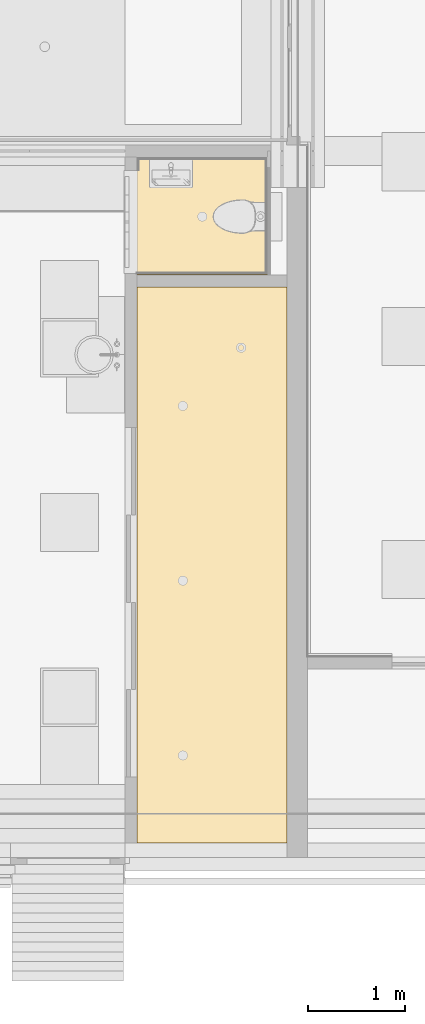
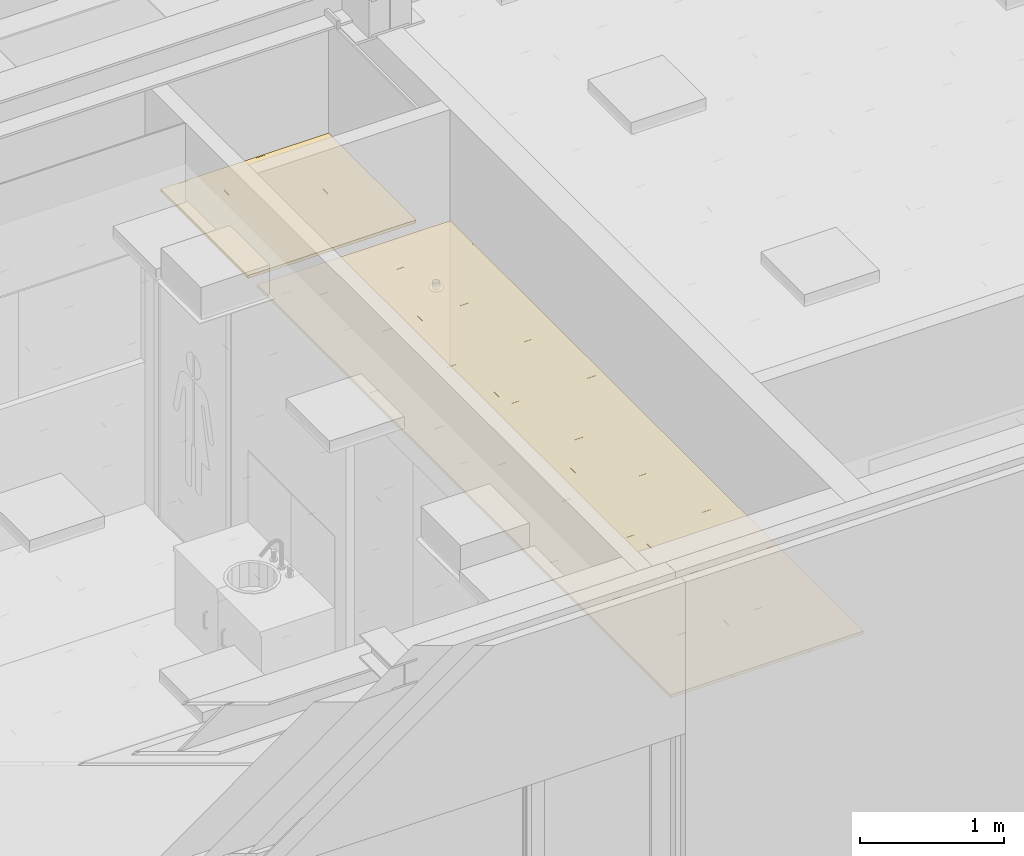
# One storey, part 164 of 347: 2 coverings.
"""IFC2X3 building model written with IfcOpenShell, lengths in millimetres."""

from ifc_helpers import new_model, entity, si_unit, converted_unit, derived_unit, money_unit, direction, frame, origin_with_axes, place, context, subcontext, project, spatial, faceted_brep, type_object, element, save


model = new_model("IFC2X3")

# Units and contexts
model_context = context("Model", 3, precision=0.01, world=origin_with_axes(), true_north=direction((0.0, 1.0)))
plan_context = context("Plan", 3, precision=0.01, world=origin_with_axes(), true_north=direction((0.0, 1.0)))
body_context = subcontext(model_context, "Body", "Model", "MODEL_VIEW")
ifc_project = project(units=[si_unit("LENGTHUNIT", "METRE", prefix="MILLI"), si_unit("AREAUNIT", "SQUARE_METRE"), si_unit("VOLUMEUNIT", "CUBIC_METRE"), converted_unit("PLANEANGLEUNIT", "DEGREE", entity("IfcPlaneAngleMeasure", 0.0174532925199), si_unit("PLANEANGLEUNIT", "RADIAN"), dimensions=[0, 0, 0, 0, 0, 0, 0]), money_unit("EUR"), converted_unit("TIMEUNIT", "Year", entity("IfcTimeMeasure", 31556926.0), si_unit("TIMEUNIT", "SECOND"), dimensions=[0, 0, 1, 0, 0, 0, 0]), si_unit("MASSUNIT", "GRAM", prefix="KILO"), si_unit("THERMODYNAMICTEMPERATUREUNIT", "DEGREE_CELSIUS"), si_unit("LUMINOUSINTENSITYUNIT", "LUMEN"), si_unit("ENERGYUNIT", "JOULE", prefix="MEGA"), derived_unit("THERMALCONDUCTANCEUNIT", [(si_unit("POWERUNIT", "WATT"), 1), (si_unit("LENGTHUNIT", "METRE"), -1), (si_unit("THERMODYNAMICTEMPERATUREUNIT", "KELVIN"), -1)]), derived_unit("SPECIFICHEATCAPACITYUNIT", [(si_unit("ENERGYUNIT", "JOULE"), 1), (si_unit("MASSUNIT", "GRAM", prefix="KILO"), -1), (si_unit("THERMODYNAMICTEMPERATUREUNIT", "KELVIN"), -1)]), derived_unit("MASSDENSITYUNIT", [(si_unit("MASSUNIT", "GRAM", prefix="KILO"), 1), (si_unit("VOLUMEUNIT", "CUBIC_METRE"), -1)])], contexts=[model_context, plan_context])

# Site, building, storey
site_placement = place(None, origin_with_axes())
site = spatial("IfcSite", under=ifc_project, at=site_placement, Name="Site", CompositionType="ELEMENT")
building_placement = place(site_placement, origin_with_axes())
building = spatial("IfcBuilding", under=site, at=building_placement, Name="Naam gebouw", CompositionType="ELEMENT")
storey_placement = place(building_placement, origin_with_axes())
storey = spatial("IfcBuildingStorey", under=building, at=storey_placement, Name="begane grond", CompositionType="ELEMENT", Elevation=0.0)

# Coverings
covering_type = type_object("IfcCoveringType", Name="Ceiling Editor INT_v2.01", PredefinedType="CEILING")
covering_1_placement = place(storey_placement, frame((33950.0, 5000.00001565, 2600.0), z_axis=(0.0, 0.0, 1.0), x_axis=(1.0, 0.0, 0.0)))
element("IfcCovering", 1, at=covering_1_placement, inside=storey, type_object=covering_type, Name="45 Plafondafwerkingen_77 garderobe", PredefinedType="CEILING", context=body_context, shape_type="Brep", body=[
    faceted_brep([(0.0, 599.899956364, 0.0), (0.0, 599.899956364, 20.0), (772.4, 599.899956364, 20.0), (772.4, 599.899956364, 0.0), (0.0, 0.0999563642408, 0.0), (0.0, 0.0999563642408, 20.0), (772.4, 0.0999563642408, 20.0), (772.4, 0.0999563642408, 0.0)], [[[0, 1, 2, 3]], [[1, 0, 4, 5]], [[1, 5, 6, 2]], [[6, 7, 3, 2]], [[4, 0, 3, 7]], [[5, 4, 7, 6]]]),
    faceted_brep([(0.0, 1199.89995636, 0.0), (0.0, 1199.89995636, 20.0), (772.4, 1199.89995636, 20.0), (772.4, 1199.89995636, 0.0), (0.0, 600.099956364, 0.0), (0.0, 600.099956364, 20.0), (772.4, 600.099956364, 20.0), (772.4, 600.099956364, 0.0)], [[[0, 1, 2, 3]], [[1, 0, 4, 5]], [[1, 5, 6, 2]], [[6, 7, 3, 2]], [[4, 0, 3, 7]], [[5, 4, 7, 6]]]),
    faceted_brep([(0.0, 1799.89995636, 0.0), (0.0, 1799.89995636, 20.0), (772.4, 1799.89995636, 20.0), (772.4, 1799.89995636, 0.0), (0.0, 1431.24999609, 0.0), (0.0, 1431.24999609, 20.0), (0.0, 1200.09995636, 20.0), (772.4, 1200.09995636, 20.0), (772.4, 1200.09995636, 0.0), (0.0, 1200.09995636, 0.0)], [[[0, 1, 2, 3]], [[1, 0, 4, 5]], [[5, 6, 7, 2, 1]], [[7, 8, 3, 2]], [[4, 0, 3, 8, 9]], [[6, 5, 4, 9]], [[6, 9, 8, 7]]]),
    faceted_brep([(0.0, 2399.89995636, 0.0), (0.0, 2399.89995636, 20.0), (772.4, 2399.89995636, 20.0), (772.4, 2399.89995636, 0.0), (0.0, 1800.09995636, 0.0), (0.0, 1800.09995636, 20.0), (772.4, 1800.09995636, 20.0), (772.4, 1800.09995636, 0.0)], [[[0, 1, 2, 3]], [[1, 0, 4, 5]], [[1, 5, 6, 2]], [[6, 7, 3, 2]], [[4, 0, 3, 7]], [[5, 4, 7, 6]]]),
    faceted_brep([(0.0, 2999.89995636, 0.0), (0.0, 2999.89995636, 20.0), (772.4, 2999.89995636, 20.0), (772.4, 2999.89995636, 0.0), (0.0, 2862.49999218, 0.0), (0.0, 2862.49999218, 20.0), (0.0, 2400.09995636, 20.0), (772.4, 2400.09995636, 20.0), (772.4, 2400.09995636, 0.0), (0.0, 2400.09995636, 0.0)], [[[0, 1, 2, 3]], [[1, 0, 4, 5]], [[5, 6, 7, 2, 1]], [[7, 8, 3, 2]], [[4, 0, 3, 8, 9]], [[6, 5, 4, 9]], [[6, 9, 8, 7]]]),
    faceted_brep([(0.0, 3599.89995636, 0.0), (0.0, 3599.89995636, 20.0), (772.4, 3599.89995636, 20.0), (772.4, 3599.89995636, 0.0), (0.0, 3000.09995636, 0.0), (0.0, 3000.09995636, 20.0), (772.4, 3000.09995636, 20.0), (772.4, 3000.09995636, 0.0)], [[[0, 1, 2, 3]], [[1, 0, 4, 5]], [[1, 5, 6, 2]], [[6, 7, 3, 2]], [[4, 0, 3, 7]], [[5, 4, 7, 6]]]),
    faceted_brep([(0.0, 4199.89995636, 0.0), (0.0, 4199.89995636, 20.0), (772.4, 4199.89995636, 20.0), (772.4, 4199.89995636, 0.0), (0.0, 3600.09995636, 0.0), (0.0, 3600.09995636, 20.0), (772.4, 3600.09995636, 20.0), (772.4, 3600.09995636, 0.0)], [[[0, 1, 2, 3]], [[1, 0, 4, 5]], [[1, 5, 6, 2]], [[6, 7, 3, 2]], [[4, 0, 3, 7]], [[5, 4, 7, 6]]]),
    faceted_brep([(0.0, 4799.89995636, 0.0), (0.0, 4799.89995636, 20.0), (772.4, 4799.89995636, 20.0), (772.4, 4799.89995636, 0.0), (0.0, 4293.74998827, 0.0), (0.0, 4293.74998827, 20.0), (0.0, 4200.09995636, 20.0), (772.4, 4200.09995636, 20.0), (772.4, 4200.09995636, 0.0), (0.0, 4200.09995636, 0.0)], [[[0, 1, 2, 3]], [[1, 0, 4, 5]], [[5, 6, 7, 2, 1]], [[7, 8, 3, 2]], [[4, 0, 3, 8, 9]], [[6, 5, 4, 9]], [[6, 9, 8, 7]]]),
    faceted_brep([(0.0, 5399.89995636, 0.0), (0.0, 5399.89995636, 20.0), (772.4, 5399.89995636, 20.0), (772.4, 5399.89995636, 0.0), (0.0, 4800.09995636, 0.0), (0.0, 4800.09995636, 20.0), (772.4, 4800.09995636, 20.0), (772.4, 4800.09995636, 0.0)], [[[0, 1, 2, 3]], [[1, 0, 4, 5]], [[1, 5, 6, 2]], [[6, 7, 3, 2]], [[4, 0, 3, 7]], [[5, 4, 7, 6]]]),
    faceted_brep([(772.4, 5724.99998435, 0.0), (772.4, 5724.99998435, 20.0), (772.4, 5400.09995636, 20.0), (772.4, 5400.09995636, 0.0), (386.25, 5724.99998435, 0.0), (386.25, 5724.99998435, 20.0), (0.0, 5724.99998435, 20.0), (0.0, 5400.09995636, 20.0), (0.0, 5400.09995636, 0.0), (0.0, 5724.99998435, 0.0)], [[[0, 1, 2, 3]], [[1, 0, 4, 5]], [[6, 7, 2, 1, 5]], [[7, 8, 3, 2]], [[4, 0, 3, 8, 9]], [[6, 5, 4, 9]], [[7, 6, 9, 8]]]),
    faceted_brep([(1545.0, 0.0999563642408, 20.0), (1545.0, 599.899956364, 20.0), (772.6, 599.899956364, 20.0), (772.6, 0.0999563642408, 20.0), (1545.0, 0.0999563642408, 0.0), (1545.0, 599.899956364, 0.0), (772.6, 599.899956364, 0.0), (772.6, 0.0999563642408, 0.0)], [[[0, 1, 2, 3]], [[1, 0, 4, 5]], [[1, 5, 6, 2]], [[2, 6, 7, 3]], [[4, 0, 3, 7]], [[5, 4, 7, 6]]]),
    faceted_brep([(1545.0, 600.099956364, 20.0), (1545.0, 1199.89995636, 20.0), (772.6, 1199.89995636, 20.0), (772.6, 600.099956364, 20.0), (1545.0, 600.099956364, 0.0), (1545.0, 1199.89995636, 0.0), (772.6, 1199.89995636, 0.0), (772.6, 600.099956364, 0.0)], [[[0, 1, 2, 3]], [[1, 0, 4, 5]], [[1, 5, 6, 2]], [[2, 6, 7, 3]], [[4, 0, 3, 7]], [[5, 4, 7, 6]]]),
    faceted_brep([(1545.0, 1431.24999609, 20.0), (1545.0, 1799.89995636, 20.0), (772.6, 1799.89995636, 20.0), (772.6, 1200.09995636, 20.0), (1545.0, 1200.09995636, 20.0), (1545.0, 1431.24999609, 0.0), (1545.0, 1799.89995636, 0.0), (772.6, 1799.89995636, 0.0), (772.6, 1200.09995636, 0.0), (1545.0, 1200.09995636, 0.0)], [[[0, 1, 2, 3, 4]], [[1, 0, 5, 6]], [[1, 6, 7, 2]], [[2, 7, 8, 3]], [[9, 4, 3, 8]], [[0, 4, 9, 5]], [[5, 9, 8, 7, 6]]]),
    faceted_brep([(1545.0, 1800.09995636, 20.0), (1545.0, 2399.89995636, 20.0), (772.6, 2399.89995636, 20.0), (772.6, 1800.09995636, 20.0), (1545.0, 1800.09995636, 0.0), (1545.0, 2399.89995636, 0.0), (772.6, 2399.89995636, 0.0), (772.6, 1800.09995636, 0.0)], [[[0, 1, 2, 3]], [[1, 0, 4, 5]], [[1, 5, 6, 2]], [[2, 6, 7, 3]], [[4, 0, 3, 7]], [[5, 4, 7, 6]]]),
    faceted_brep([(1545.0, 2862.49999218, 20.0), (1545.0, 2999.89995636, 20.0), (772.6, 2999.89995636, 20.0), (772.6, 2400.09995636, 20.0), (1545.0, 2400.09995636, 20.0), (1545.0, 2862.49999218, 0.0), (1545.0, 2999.89995636, 0.0), (772.6, 2999.89995636, 0.0), (772.6, 2400.09995636, 0.0), (1545.0, 2400.09995636, 0.0)], [[[0, 1, 2, 3, 4]], [[1, 0, 5, 6]], [[1, 6, 7, 2]], [[2, 7, 8, 3]], [[9, 4, 3, 8]], [[0, 4, 9, 5]], [[5, 9, 8, 7, 6]]]),
    faceted_brep([(1545.0, 3000.09995636, 20.0), (1545.0, 3599.89995636, 20.0), (772.6, 3599.89995636, 20.0), (772.6, 3000.09995636, 20.0), (1545.0, 3000.09995636, 0.0), (1545.0, 3599.89995636, 0.0), (772.6, 3599.89995636, 0.0), (772.6, 3000.09995636, 0.0)], [[[0, 1, 2, 3]], [[1, 0, 4, 5]], [[1, 5, 6, 2]], [[2, 6, 7, 3]], [[4, 0, 3, 7]], [[5, 4, 7, 6]]]),
    faceted_brep([(1545.0, 3600.09995636, 20.0), (1545.0, 4199.89995636, 20.0), (772.6, 4199.89995636, 20.0), (772.6, 3600.09995636, 20.0), (1545.0, 3600.09995636, 0.0), (1545.0, 4199.89995636, 0.0), (772.6, 4199.89995636, 0.0), (772.6, 3600.09995636, 0.0)], [[[0, 1, 2, 3]], [[1, 0, 4, 5]], [[1, 5, 6, 2]], [[2, 6, 7, 3]], [[4, 0, 3, 7]], [[5, 4, 7, 6]]]),
    faceted_brep([(1545.0, 4293.74998827, 20.0), (1545.0, 4799.89995636, 20.0), (772.6, 4799.89995636, 20.0), (772.6, 4200.09995636, 20.0), (1545.0, 4200.09995636, 20.0), (1545.0, 4293.74998827, 0.0), (1545.0, 4799.89995636, 0.0), (772.6, 4799.89995636, 0.0), (772.6, 4200.09995636, 0.0), (1545.0, 4200.09995636, 0.0)], [[[0, 1, 2, 3, 4]], [[1, 0, 5, 6]], [[1, 6, 7, 2]], [[2, 7, 8, 3]], [[9, 4, 3, 8]], [[0, 4, 9, 5]], [[5, 9, 8, 7, 6]]]),
    faceted_brep([(1545.0, 4800.09995636, 20.0), (1545.0, 5399.89995636, 20.0), (772.6, 5399.89995636, 20.0), (772.6, 4800.09995636, 20.0), (1545.0, 4800.09995636, 0.0), (1545.0, 5399.89995636, 0.0), (772.6, 5399.89995636, 0.0), (772.6, 4800.09995636, 0.0)], [[[0, 1, 2, 3]], [[1, 0, 4, 5]], [[1, 5, 6, 2]], [[2, 6, 7, 3]], [[4, 0, 3, 7]], [[5, 4, 7, 6]]]),
    faceted_brep([(1545.0, 5400.09995636, 20.0), (1545.0, 5724.99998435, 20.0), (1158.75, 5724.99998435, 20.0), (772.6, 5724.99998435, 20.0), (772.6, 5400.09995636, 20.0), (1545.0, 5400.09995636, 0.0), (1545.0, 5724.99998435, 0.0), (1158.75, 5724.99998435, 0.0), (772.6, 5724.99998435, 0.0), (772.6, 5400.09995636, 0.0)], [[[0, 1, 2, 3, 4]], [[1, 0, 5, 6]], [[2, 1, 6, 7]], [[3, 2, 7, 8]], [[3, 8, 9, 4]], [[5, 0, 4, 9]], [[6, 5, 9, 8, 7]]]),
    faceted_brep([(760.0, 25.0, -5.0), (760.0, 25.0, 0.0), (760.0, 587.499956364, 0.0), (760.0, 587.499956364, -5.0), (25.0, 25.0, -5.0), (25.0, 25.0, 0.0), (1545.0, 1787.49995636, 0.0), (1545.0, 1812.49995636, 0.0), (1545.0, 2387.49995636, 0.0), (1545.0, 2412.49995636, 0.0), (1545.0, 2987.49995636, 0.0), (1545.0, 3012.49995636, 0.0), (1545.0, 3587.49995636, 0.0), (1545.0, 3612.49995636, 0.0), (1545.0, 4187.49995636, 0.0), (1545.0, 4212.49995636, 0.0), (1545.0, 4787.49995636, 0.0), (1545.0, 4812.49995636, 0.0), (1545.0, 5387.49995636, 0.0), (1545.0, 5412.49995636, 0.0), (1545.0, 5724.99998435, 0.0), (785.0, 5724.99998435, 0.0), (772.5, 5724.99998435, 0.0), (760.0, 5724.99998435, 0.0), (0.0, 5724.99998435, 0.0), (0.0, 5412.49995636, 0.0), (0.0, 5387.49995636, 0.0), (0.0, 4812.49995636, 0.0), (0.0, 4787.49995636, 0.0), (0.0, 4212.49995636, 0.0), (0.0, 4187.49995636, 0.0), (0.0, 3612.49995636, 0.0), (0.0, 3587.49995636, 0.0), (0.0, 3012.49995636, 0.0), (0.0, 2987.49995636, 0.0), (0.0, 2412.49995636, 0.0), (0.0, 2387.49995636, 0.0), (0.0, 1812.49995636, 0.0), (0.0, 1787.49995636, 0.0), (0.0, 1212.49995636, 0.0), (0.0, 1187.49995636, 0.0), (0.0, 612.499956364, 0.0), (0.0, 587.499956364, 0.0), (0.0, 12.4999563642, 0.0), (0.0, 0.0, 0.0), (386.25, 0.0, 0.0), (772.5, 0.0, 0.0), (1158.75, 0.0, 0.0), (1545.0, 0.0, 0.0), (1545.0, 12.4999563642, 0.0), (1545.0, 587.499956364, 0.0), (1545.0, 612.499956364, 0.0), (1545.0, 1187.49995636, 0.0), (1545.0, 1212.49995636, 0.0), (25.0, 587.499956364, 0.0), (25.0, 1187.49995636, 0.0), (760.0, 1187.49995636, 0.0), (760.0, 612.499956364, 0.0), (25.0, 612.499956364, 0.0), (25.0, 1787.49995636, 0.0), (760.0, 1787.49995636, 0.0), (760.0, 1212.49995636, 0.0), (25.0, 1212.49995636, 0.0), (25.0, 2387.49995636, 0.0), (760.0, 2387.49995636, 0.0), (760.0, 1812.49995636, 0.0), (25.0, 1812.49995636, 0.0), (25.0, 2987.49995636, 0.0), (760.0, 2987.49995636, 0.0), (760.0, 2412.49995636, 0.0), (25.0, 2412.49995636, 0.0), (25.0, 3587.49995636, 0.0), (760.0, 3587.49995636, 0.0), (760.0, 3012.49995636, 0.0), (25.0, 3012.49995636, 0.0), (25.0, 4187.49995636, 0.0), (760.0, 4187.49995636, 0.0), (760.0, 3612.49995636, 0.0), (25.0, 3612.49995636, 0.0), (25.0, 4787.49995636, 0.0), (760.0, 4787.49995636, 0.0), (760.0, 4212.49995636, 0.0), (25.0, 4212.49995636, 0.0), (25.0, 5387.49995636, 0.0), (760.0, 5387.49995636, 0.0), (760.0, 4812.49995636, 0.0), (25.0, 4812.49995636, 0.0), (760.0, 5699.99998435, 0.0), (760.0, 5412.49995636, 0.0), (25.0, 5412.49995636, 0.0), (25.0, 5699.99998435, 0.0), (1520.0, 5387.49995636, 0.0), (1520.0, 4812.49995636, 0.0), (785.0, 4812.49995636, 0.0), (785.0, 5387.49995636, 0.0), (1520.0, 5699.99998435, 0.0), (1520.0, 5412.49995636, 0.0), (785.0, 5412.49995636, 0.0), (785.0, 5699.99998435, 0.0), (1520.0, 3587.49995636, 0.0), (1520.0, 3012.49995636, 0.0), (785.0, 3012.49995636, 0.0), (785.0, 3587.49995636, 0.0), (1520.0, 4187.49995636, 0.0), (1520.0, 3612.49995636, 0.0), (785.0, 3612.49995636, 0.0), (785.0, 4187.49995636, 0.0), (1520.0, 4212.49995636, 0.0), (785.0, 4212.49995636, 0.0), (785.0, 4787.49995636, 0.0), (1520.0, 4787.49995636, 0.0), (1520.0, 2387.49995636, 0.0), (1520.0, 1812.49995636, 0.0), (785.0, 1812.49995636, 0.0), (785.0, 2387.49995636, 0.0), (1520.0, 2412.49995636, 0.0), (785.0, 2412.49995636, 0.0), (785.0, 2987.49995636, 0.0), (1520.0, 2987.49995636, 0.0), (785.0, 25.0, 0.0), (785.0, 587.499956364, 0.0), (1520.0, 587.499956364, 0.0), (1520.0, 25.0, 0.0), (1520.0, 1187.49995636, 0.0), (1520.0, 612.499956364, 0.0), (785.0, 612.499956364, 0.0), (785.0, 1187.49995636, 0.0), (1520.0, 1212.49995636, 0.0), (785.0, 1212.49995636, 0.0), (785.0, 1787.49995636, 0.0), (1520.0, 1787.49995636, 0.0), (25.0, 587.499956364, -5.0), (1545.0, 1212.49995636, -5.0), (1545.0, 1187.49995636, -5.0), (1545.0, 612.499956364, -5.0), (1545.0, 587.499956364, -5.0), (1545.0, 12.4999563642, -5.0), (1545.0, 0.0, -5.0), (1158.75, 0.0, -5.0), (772.5, 0.0, -5.0), (386.25, 0.0, -5.0), (0.0, 0.0, -5.0), (0.0, 12.4999563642, -5.0), (0.0, 587.499956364, -5.0), (0.0, 612.499956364, -5.0), (0.0, 1187.49995636, -5.0), (0.0, 1212.49995636, -5.0), (0.0, 1787.49995636, -5.0), (0.0, 1812.49995636, -5.0), (0.0, 2387.49995636, -5.0), (0.0, 2412.49995636, -5.0), (0.0, 2987.49995636, -5.0), (0.0, 3012.49995636, -5.0), (0.0, 3587.49995636, -5.0), (0.0, 3612.49995636, -5.0), (0.0, 4187.49995636, -5.0), (0.0, 4212.49995636, -5.0), (0.0, 4787.49995636, -5.0), (0.0, 4812.49995636, -5.0), (0.0, 5387.49995636, -5.0), (0.0, 5412.49995636, -5.0), (0.0, 5724.99998435, -5.0), (760.0, 5724.99998435, -5.0), (772.5, 5724.99998435, -5.0), (785.0, 5724.99998435, -5.0), (1545.0, 5724.99998435, -5.0), (1545.0, 5412.49995636, -5.0), (1545.0, 5387.49995636, -5.0), (1545.0, 4812.49995636, -5.0), (1545.0, 4787.49995636, -5.0), (1545.0, 4212.49995636, -5.0), (1545.0, 4187.49995636, -5.0), (1545.0, 3612.49995636, -5.0), (1545.0, 3587.49995636, -5.0), (1545.0, 3012.49995636, -5.0), (1545.0, 2987.49995636, -5.0), (1545.0, 2412.49995636, -5.0), (1545.0, 2387.49995636, -5.0), (1545.0, 1812.49995636, -5.0), (1545.0, 1787.49995636, -5.0), (25.0, 1187.49995636, -5.0), (25.0, 612.499956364, -5.0), (760.0, 612.499956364, -5.0), (760.0, 1187.49995636, -5.0), (25.0, 1787.49995636, -5.0), (25.0, 1212.49995636, -5.0), (760.0, 1212.49995636, -5.0), (760.0, 1787.49995636, -5.0), (25.0, 2387.49995636, -5.0), (25.0, 1812.49995636, -5.0), (760.0, 1812.49995636, -5.0), (760.0, 2387.49995636, -5.0), (25.0, 2987.49995636, -5.0), (25.0, 2412.49995636, -5.0), (760.0, 2412.49995636, -5.0), (760.0, 2987.49995636, -5.0), (25.0, 3587.49995636, -5.0), (25.0, 3012.49995636, -5.0), (760.0, 3012.49995636, -5.0), (760.0, 3587.49995636, -5.0), (25.0, 4187.49995636, -5.0), (25.0, 3612.49995636, -5.0), (760.0, 3612.49995636, -5.0), (760.0, 4187.49995636, -5.0), (25.0, 4787.49995636, -5.0), (25.0, 4212.49995636, -5.0), (760.0, 4212.49995636, -5.0), (760.0, 4787.49995636, -5.0), (25.0, 5387.49995636, -5.0), (25.0, 4812.49995636, -5.0), (760.0, 4812.49995636, -5.0), (760.0, 5387.49995636, -5.0), (760.0, 5699.99998435, -5.0), (25.0, 5699.99998435, -5.0), (25.0, 5412.49995636, -5.0), (760.0, 5412.49995636, -5.0), (1520.0, 5387.49995636, -5.0), (785.0, 5387.49995636, -5.0), (785.0, 4812.49995636, -5.0), (1520.0, 4812.49995636, -5.0), (1520.0, 5699.99998435, -5.0), (785.0, 5699.99998435, -5.0), (785.0, 5412.49995636, -5.0), (1520.0, 5412.49995636, -5.0), (1520.0, 3587.49995636, -5.0), (785.0, 3587.49995636, -5.0), (785.0, 3012.49995636, -5.0), (1520.0, 3012.49995636, -5.0), (1520.0, 4187.49995636, -5.0), (785.0, 4187.49995636, -5.0), (785.0, 3612.49995636, -5.0), (1520.0, 3612.49995636, -5.0), (1520.0, 4787.49995636, -5.0), (785.0, 4787.49995636, -5.0), (785.0, 4212.49995636, -5.0), (1520.0, 4212.49995636, -5.0), (1520.0, 2387.49995636, -5.0), (785.0, 2387.49995636, -5.0), (785.0, 1812.49995636, -5.0), (1520.0, 1812.49995636, -5.0), (1520.0, 2987.49995636, -5.0), (785.0, 2987.49995636, -5.0), (785.0, 2412.49995636, -5.0), (1520.0, 2412.49995636, -5.0), (1520.0, 25.0, -5.0), (1520.0, 587.499956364, -5.0), (785.0, 587.499956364, -5.0), (785.0, 25.0, -5.0), (1520.0, 1187.49995636, -5.0), (785.0, 1187.49995636, -5.0), (785.0, 612.499956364, -5.0), (1520.0, 612.499956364, -5.0), (1520.0, 1787.49995636, -5.0), (785.0, 1787.49995636, -5.0), (785.0, 1212.49995636, -5.0), (1520.0, 1212.49995636, -5.0)], [[[0, 1, 2, 3]], [[1, 0, 4, 5]], [[6, 7, 8, 9, 10, 11, 12, 13, 14, 15, 16, 17, 18, 19, 20, 21, 22, 23, 24, 25, 26, 27, 28, 29, 30, 31, 32, 33, 34, 35, 36, 37, 38, 39, 40, 41, 42, 43, 44, 45, 46, 47, 48, 49, 50, 51, 52, 53], [1, 5, 54, 2], [55, 56, 57, 58], [59, 60, 61, 62], [63, 64, 65, 66], [67, 68, 69, 70], [71, 72, 73, 74], [75, 76, 77, 78], [79, 80, 81, 82], [83, 84, 85, 86], [87, 88, 89, 90], [91, 92, 93, 94], [95, 96, 97, 98], [99, 100, 101, 102], [103, 104, 105, 106], [107, 108, 109, 110], [111, 112, 113, 114], [115, 116, 117, 118], [119, 120, 121, 122], [123, 124, 125, 126], [127, 128, 129, 130]], [[54, 131, 3, 2]], [[132, 133, 134, 135, 136, 137, 138, 139, 140, 141, 142, 143, 144, 145, 146, 147, 148, 149, 150, 151, 152, 153, 154, 155, 156, 157, 158, 159, 160, 161, 162, 163, 164, 165, 166, 167, 168, 169, 170, 171, 172, 173, 174, 175, 176, 177, 178, 179], [0, 3, 131, 4], [180, 181, 182, 183], [184, 185, 186, 187], [188, 189, 190, 191], [192, 193, 194, 195], [196, 197, 198, 199], [200, 201, 202, 203], [204, 205, 206, 207], [208, 209, 210, 211], [212, 213, 214, 215], [216, 217, 218, 219], [220, 221, 222, 223], [224, 225, 226, 227], [228, 229, 230, 231], [232, 233, 234, 235], [236, 237, 238, 239], [240, 241, 242, 243], [244, 245, 246, 247], [248, 249, 250, 251], [252, 253, 254, 255]], [[131, 54, 5, 4]], [[132, 179, 178, 177, 176, 175, 174, 173, 172, 171, 170, 169, 168, 167, 166, 165, 20, 19, 18, 17, 16, 15, 14, 13, 12, 11, 10, 9, 8, 7, 6, 53, 52, 51, 50, 49, 48, 137, 136, 135, 134, 133]], [[20, 165, 164, 163, 22, 21]], [[23, 22, 163, 162, 161, 24]], [[24, 161, 160, 159, 158, 157, 156, 155, 154, 153, 152, 151, 150, 149, 148, 147, 146, 145, 144, 143, 142, 141, 44, 43, 42, 41, 40, 39, 38, 37, 36, 35, 34, 33, 32, 31, 30, 29, 28, 27, 26, 25]], [[141, 140, 45, 44]], [[45, 140, 139, 46]], [[138, 47, 46, 139]], [[138, 137, 48, 47]], [[55, 180, 183, 56]], [[57, 56, 183, 182]], [[181, 58, 57, 182]], [[180, 55, 58, 181]], [[59, 184, 187, 60]], [[61, 60, 187, 186]], [[185, 62, 61, 186]], [[184, 59, 62, 185]], [[63, 188, 191, 64]], [[65, 64, 191, 190]], [[189, 66, 65, 190]], [[188, 63, 66, 189]], [[67, 192, 195, 68]], [[69, 68, 195, 194]], [[193, 70, 69, 194]], [[192, 67, 70, 193]], [[71, 196, 199, 72]], [[73, 72, 199, 198]], [[197, 74, 73, 198]], [[196, 71, 74, 197]], [[75, 200, 203, 76]], [[77, 76, 203, 202]], [[201, 78, 77, 202]], [[200, 75, 78, 201]], [[79, 204, 207, 80]], [[81, 80, 207, 206]], [[205, 82, 81, 206]], [[204, 79, 82, 205]], [[83, 208, 211, 84]], [[85, 84, 211, 210]], [[209, 86, 85, 210]], [[208, 83, 86, 209]], [[87, 212, 215, 88]], [[214, 89, 88, 215]], [[213, 90, 89, 214]], [[212, 87, 90, 213]], [[91, 216, 219, 92]], [[92, 219, 218, 93]], [[218, 217, 94, 93]], [[216, 91, 94, 217]], [[95, 220, 223, 96]], [[96, 223, 222, 97]], [[221, 98, 97, 222]], [[220, 95, 98, 221]], [[99, 224, 227, 100]], [[100, 227, 226, 101]], [[226, 225, 102, 101]], [[224, 99, 102, 225]], [[103, 228, 231, 104]], [[104, 231, 230, 105]], [[230, 229, 106, 105]], [[228, 103, 106, 229]], [[107, 235, 234, 108]], [[234, 233, 109, 108]], [[232, 110, 109, 233]], [[107, 110, 232, 235]], [[111, 236, 239, 112]], [[112, 239, 238, 113]], [[238, 237, 114, 113]], [[236, 111, 114, 237]], [[115, 243, 242, 116]], [[242, 241, 117, 116]], [[240, 118, 117, 241]], [[115, 118, 240, 243]], [[119, 247, 246, 120]], [[245, 121, 120, 246]], [[244, 122, 121, 245]], [[119, 122, 244, 247]], [[123, 248, 251, 124]], [[124, 251, 250, 125]], [[250, 249, 126, 125]], [[248, 123, 126, 249]], [[127, 255, 254, 128]], [[254, 253, 129, 128]], [[252, 130, 129, 253]], [[127, 130, 252, 255]]]),
])
covering_2_placement = place(storey_placement, frame((33950.0, 10850.0, 2600.0), z_axis=(0.0, 0.0, 1.0), x_axis=(1.0, 0.0, 0.0)))
element("IfcCovering", 2, at=covering_2_placement, inside=storey, type_object=covering_type, Name="45 Plafondafwerkingen_77 garderobe", PredefinedType="CEILING", context=body_context, shape_type="Brep", body=[
    faceted_brep([(336.25, 0.0, 20.0), (372.4, 0.0, 20.0), (372.4, 2.9, 20.0), (0.0, 2.9, 20.0), (0.0, 0.0, 20.0), (336.25, 0.0, 0.0), (372.4, 0.0, 0.0), (372.4, 2.9, 0.0), (0.0, 2.9, 0.0), (0.0, 0.0, 0.0)], [[[0, 1, 2, 3, 4]], [[1, 0, 5, 6]], [[1, 6, 7, 2]], [[8, 3, 2, 7]], [[3, 8, 9, 4]], [[0, 4, 9, 5]], [[9, 8, 7, 6, 5]]]),
    faceted_brep([(0.0, 1202.9, 0.0), (0.0, 1202.9, 20.0), (372.4, 1202.9, 20.0), (372.4, 1202.9, 0.0), (0.0, 909.375, 0.0), (0.0, 909.375, 20.0), (0.0, 303.125, 20.0), (0.0, 3.1, 20.0), (372.4, 3.1, 20.0), (0.0, 606.25, 20.0), (372.4, 3.1, 0.0), (0.0, 3.1, 0.0), (0.0, 303.125, 0.0), (0.0, 606.25, 0.0)], [[[0, 1, 2, 3]], [[1, 0, 4, 5]], [[6, 7, 8, 2, 1, 5, 9]], [[8, 10, 3, 2]], [[4, 0, 3, 10, 11, 12, 13]], [[9, 5, 4, 13]], [[7, 6, 12, 11]], [[7, 11, 10, 8]], [[6, 9, 13, 12]]]),
    faceted_brep([(372.4, 1212.5, 0.0), (372.4, 1212.5, 20.0), (372.4, 1203.1, 20.0), (372.4, 1203.1, 0.0), (336.25, 1212.5, 0.0), (336.25, 1212.5, 20.0), (0.0, 1212.5, 20.0), (0.0, 1203.1, 20.0), (0.0, 1203.1, 0.0), (0.0, 1212.5, 0.0)], [[[0, 1, 2, 3]], [[1, 0, 4, 5]], [[6, 7, 2, 1, 5]], [[7, 8, 3, 2]], [[4, 0, 3, 8, 9]], [[6, 5, 4, 9]], [[7, 6, 9, 8]]]),
    faceted_brep([(672.5, 0.0, 20.0), (972.4, 0.0, 20.0), (972.4, 2.9, 20.0), (372.6, 2.9, 20.0), (372.6, 0.0, 20.0), (672.5, 0.0, 0.0), (972.4, 0.0, 0.0), (972.4, 2.9, 0.0), (372.6, 2.9, 0.0), (372.6, 0.0, 0.0)], [[[0, 1, 2, 3, 4]], [[1, 0, 5, 6]], [[1, 6, 7, 2]], [[2, 7, 8, 3]], [[9, 4, 3, 8]], [[0, 4, 9, 5]], [[5, 9, 8, 7, 6]]]),
    faceted_brep([(972.4, 3.1, 20.0), (972.4, 3.1, 0.0), (972.4, 1202.9, 0.0), (972.4, 1202.9, 20.0), (372.6, 3.1, 20.0), (372.6, 3.1, 0.0), (372.6, 1202.9, 0.0), (372.6, 1202.9, 20.0)], [[[0, 1, 2, 3]], [[4, 5, 1, 0]], [[2, 1, 5, 6]], [[3, 2, 6, 7]], [[4, 0, 3, 7]], [[7, 6, 5, 4]]]),
    faceted_brep([(972.4, 1212.5, 0.0), (972.4, 1212.5, 20.0), (972.4, 1203.1, 20.0), (972.4, 1203.1, 0.0), (672.5, 1212.5, 0.0), (672.5, 1212.5, 20.0), (372.6, 1212.5, 20.0), (372.6, 1203.1, 20.0), (372.6, 1203.1, 0.0), (372.6, 1212.5, 0.0)], [[[0, 1, 2, 3]], [[1, 0, 4, 5]], [[5, 6, 7, 2, 1]], [[7, 8, 3, 2]], [[4, 0, 3, 8, 9]], [[6, 5, 4, 9]], [[6, 9, 8, 7]]]),
    faceted_brep([(1345.0, 0.0, 20.0), (1345.0, 2.9, 20.0), (972.6, 2.9, 20.0), (972.6, 0.0, 20.0), (1008.75, 0.0, 20.0), (1345.0, 0.0, 0.0), (1345.0, 2.9, 0.0), (972.6, 2.9, 0.0), (972.6, 0.0, 0.0), (1008.75, 0.0, 0.0)], [[[0, 1, 2, 3, 4]], [[1, 0, 5, 6]], [[1, 6, 7, 2]], [[8, 3, 2, 7]], [[4, 3, 8, 9]], [[0, 4, 9, 5]], [[9, 8, 7, 6, 5]]]),
    faceted_brep([(1345.0, 909.375, 20.0), (1345.0, 1202.9, 20.0), (972.6, 1202.9, 20.0), (972.6, 3.1, 20.0), (1345.0, 3.1, 20.0), (1345.0, 303.125, 20.0), (1345.0, 606.25, 20.0), (1345.0, 909.375, 0.0), (1345.0, 1202.9, 0.0), (972.6, 1202.9, 0.0), (972.6, 3.1, 0.0), (1345.0, 3.1, 0.0), (1345.0, 303.125, 0.0), (1345.0, 606.25, 0.0)], [[[0, 1, 2, 3, 4, 5, 6]], [[1, 0, 7, 8]], [[1, 8, 9, 2]], [[2, 9, 10, 3]], [[11, 4, 3, 10]], [[5, 4, 11, 12]], [[6, 5, 12, 13]], [[0, 6, 13, 7]], [[12, 11, 10, 9, 8, 7, 13]]]),
    faceted_brep([(1345.0, 1203.1, 20.0), (1345.0, 1212.5, 20.0), (1008.75, 1212.5, 20.0), (972.6, 1212.5, 20.0), (972.6, 1203.1, 20.0), (1345.0, 1203.1, 0.0), (1345.0, 1212.5, 0.0), (1008.75, 1212.5, 0.0), (972.6, 1212.5, 0.0), (972.6, 1203.1, 0.0)], [[[0, 1, 2, 3, 4]], [[1, 0, 5, 6]], [[2, 1, 6, 7]], [[3, 2, 7, 8]], [[3, 8, 9, 4]], [[5, 0, 4, 9]], [[6, 5, 9, 8, 7]]]),
    faceted_brep([(360.0, 25.0, -5.0), (360.0, 25.0, 0.0), (360.0, 1187.5, 0.0), (360.0, 1187.5, -5.0), (25.0, 25.0, -5.0), (25.0, 25.0, 0.0), (1345.0, 1190.5, 0.0), (1345.0, 1212.5, 0.0), (1008.75, 1212.5, 0.0), (672.5, 1212.5, 0.0), (336.25, 1212.5, 0.0), (0.0, 1212.5, 0.0), (0.0, 1190.5, 0.0), (0.0, 15.5, 0.0), (0.0, 0.0, 0.0), (336.25, 0.0, 0.0), (672.5, 0.0, 0.0), (1008.75, 0.0, 0.0), (1345.0, 0.0, 0.0), (1345.0, 15.5, 0.0), (385.0, 25.0, 0.0), (385.0, 1187.5, 0.0), (960.0, 1187.5, 0.0), (960.0, 25.0, 0.0), (25.0, 1187.5, 0.0), (985.0, 25.0, 0.0), (985.0, 1187.5, 0.0), (1320.0, 1187.5, 0.0), (1320.0, 25.0, 0.0), (25.0, 1187.5, -5.0), (1345.0, 15.5, -5.0), (1345.0, 0.0, -5.0), (1008.75, 0.0, -5.0), (672.5, 0.0, -5.0), (336.25, 0.0, -5.0), (0.0, 0.0, -5.0), (0.0, 15.5, -5.0), (0.0, 1190.5, -5.0), (0.0, 1212.5, -5.0), (336.25, 1212.5, -5.0), (672.5, 1212.5, -5.0), (1008.75, 1212.5, -5.0), (1345.0, 1212.5, -5.0), (1345.0, 1190.5, -5.0), (960.0, 25.0, -5.0), (960.0, 1187.5, -5.0), (385.0, 1187.5, -5.0), (385.0, 25.0, -5.0), (1320.0, 25.0, -5.0), (1320.0, 1187.5, -5.0), (985.0, 1187.5, -5.0), (985.0, 25.0, -5.0)], [[[0, 1, 2, 3]], [[1, 0, 4, 5]], [[6, 7, 8, 9, 10, 11, 12, 13, 14, 15, 16, 17, 18, 19], [20, 21, 22, 23], [1, 5, 24, 2], [25, 26, 27, 28]], [[3, 2, 24, 29]], [[30, 31, 32, 33, 34, 35, 36, 37, 38, 39, 40, 41, 42, 43], [44, 45, 46, 47], [0, 3, 29, 4], [48, 49, 50, 51]], [[29, 24, 5, 4]], [[30, 43, 42, 7, 6, 19, 18, 31]], [[42, 41, 8, 7]], [[41, 40, 9, 8]], [[40, 39, 10, 9]], [[39, 38, 11, 10]], [[12, 11, 38, 37, 36, 35, 14, 13]], [[35, 34, 15, 14]], [[33, 16, 15, 34]], [[32, 17, 16, 33]], [[32, 31, 18, 17]], [[20, 47, 46, 21]], [[45, 22, 21, 46]], [[44, 23, 22, 45]], [[20, 23, 44, 47]], [[25, 51, 50, 26]], [[49, 27, 26, 50]], [[48, 28, 27, 49]], [[25, 28, 48, 51]]]),
])

save(model, "model.ifc")
